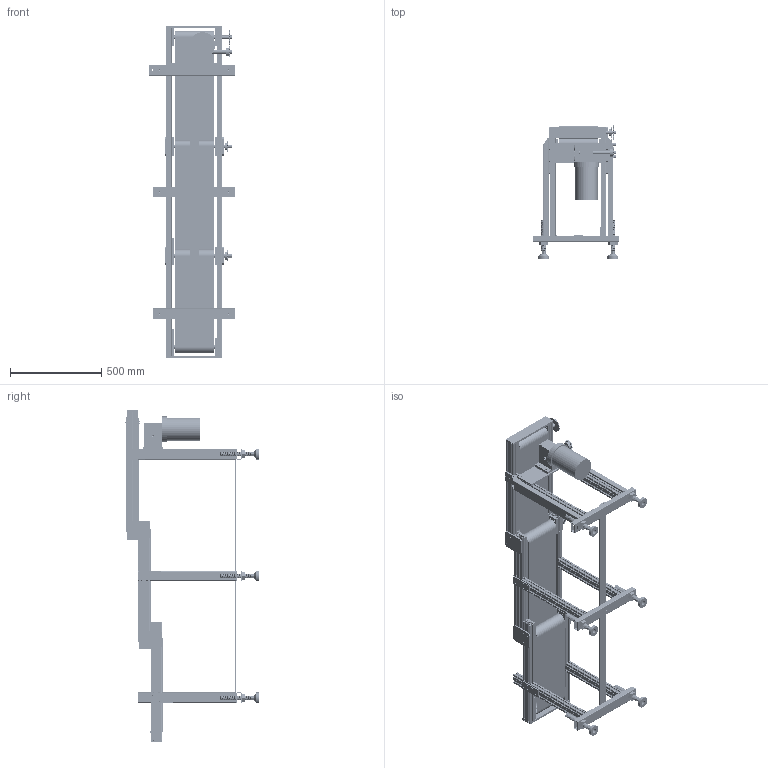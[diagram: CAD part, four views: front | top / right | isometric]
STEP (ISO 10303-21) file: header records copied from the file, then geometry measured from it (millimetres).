
FILE_DESCRIPTION(/* description */ (''),/* implementation_level */ '2;1');
FILE_NAME(/* name */ 'beltconveyor_a124_w220_l1800.stp',/* time_stamp */ '2025-01-12T21:02:34+08:00',/* author */ (''),/* organization */ (''),/* preprocessor_version */ 'ST-DEVELOPER v16.7',/* originating_system */ 'SIEMENS PLM Software NX 12.0',/* authorisation */ '');
FILE_SCHEMA (('AUTOMOTIVE_DESIGN { 1 0 10303 214 3 1 1 1 }'));
Products named in the file (31): transmission roller chain sprocket_u_jis_JIS B 1802 Sprocket 35, N26 
U --26SA4N; GD01CP; 30x60x700; GD06PF; A01MTTT; GD02TC; BELT 2; CP01KK; ass pp245; pipa 30x60 cp 560; GUIDE BLK CP; 30x60x700-KAKI 475; PLAT STREP 50X8 CP; PART KAKI D60 m25; BELT 1; skcp; ass pp; 30x60x600; pipa 30x60 410 cp; 30x60x500; 30x60x700-KAKI 410; MOTOR KECIL; MUR M.25; tension baut m25; RS35 T18 AS 20; continuous thread hexagon head bolt_c_jis_JIS B 1180 Continuous threa
d hexagon head bolt C M6 x 20 --WS; 30x60x700-KAKI 540; GD05PF; MG04MB-PLAT; GD04PF; beltconveyor_a124_w220_l1800
Assembly tree (113 placements, depth 2):
  beltconveyor_a124_w220_l1800
    GD04PF  x6
    MG04MB-PLAT  x14
    GD05PF  x2
    30x60x700-KAKI 540  x6
    continuous thread hexagon head bolt_c_jis_JIS B 1180 Continuous threa
d hexagon head bolt C M6 x 20 --WS  x16
    RS35 T18 AS 20  x5
    tension baut m25  x6
    MUR M.25  x6
    MOTOR KECIL
    30x60x700-KAKI 410  x2
    30x60x500  x3
    pipa 30x60 410 cp  x6
    30x60x600  x2
    ass pp  x5
    skcp  x6
    BELT 1  x2
    PART KAKI D60 m25  x6
    PLAT STREP 50X8 CP
    30x60x700-KAKI 475  x2
    GUIDE BLK CP  x2
    pipa 30x60 cp 560  x2
    ass pp245
    CP01KK  x2
    BELT 2
    GD02TC
    A01MTTT
    GD06PF  x2
    30x60x700  x2
    GD01CP
    transmission roller chain sprocket_u_jis_JIS B 1802 Sprocket 35, N26 
U --26SA4N
Bounding box: 475 x 736.74 x 1824 mm (x, y, z)
Volume: 18936565.1 mm3; surface area: 9607486.7 mm2
Topology: 185 solids, 185 shells, 10131 faces, 27283 edges, 17617 vertices
Faces by surface type: plane 4804, cylinder 3133, cone 1390, extrusion 738, bspline 52, torus 14
Entity records: 112161 total; most frequent: CARTESIAN_POINT 36117, ORIENTED_EDGE 16712, DIRECTION 13559, EDGE_CURVE 8356, VECTOR 5601, VERTEX_POINT 5534, LINE 5232, AXIS2_PLACEMENT_3D 3979
